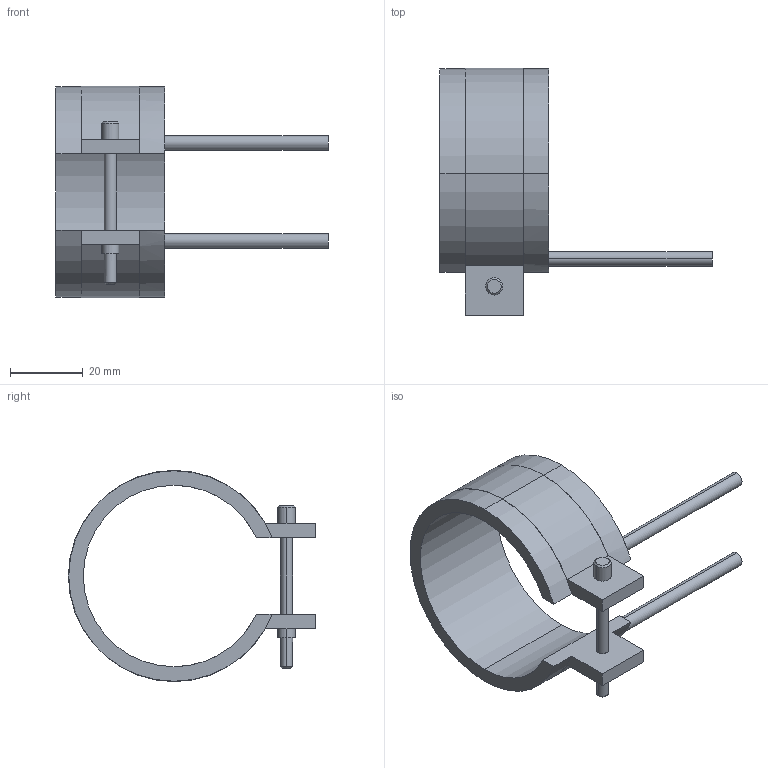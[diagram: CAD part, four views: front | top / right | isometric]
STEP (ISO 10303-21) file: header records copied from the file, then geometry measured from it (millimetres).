
FILE_DESCRIPTION(('CATIA V5 STEP Exchange'),'2;1');
FILE_NAME('C:\Users\Utente\Desktop\IO LAVORO\3D X SITO CF\X SITO\PLASTICA\RF2\14050030.stp','2021-03-31T11:54:25+00:00',('none'),('none'),'CATIA Version 5 Release 20 GA (IN-10)','CATIA V5 STEP AP203','none');
FILE_SCHEMA(('CONFIG_CONTROL_DESIGN'));
Length unit declared in the file: millimetre
Products named in the file (1): 14050030
Bounding box: 75 x 68.1 x 58.2 mm (x, y, z)
Volume: 21177.9 mm3; surface area: 12911.7 mm2
Topology: 1 solids, 1 shells, 45 faces, 116 edges, 76 vertices
Faces by surface type: cylinder 24, plane 17, cone 4
Entity records: 1400 total; most frequent: CARTESIAN_POINT 274, ORIENTED_EDGE 232, DIRECTION 196, EDGE_CURVE 116, AXIS2_PLACEMENT_3D 104, VERTEX_POINT 76, CIRCLE 62, VECTOR 52
